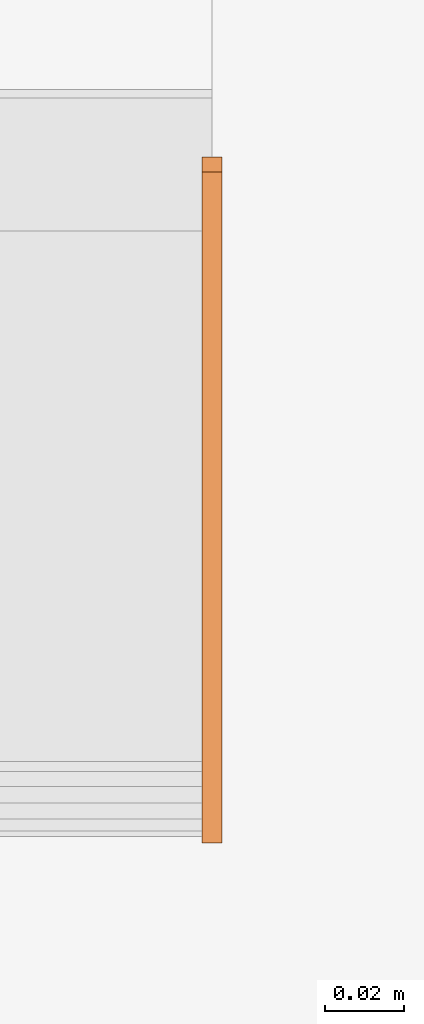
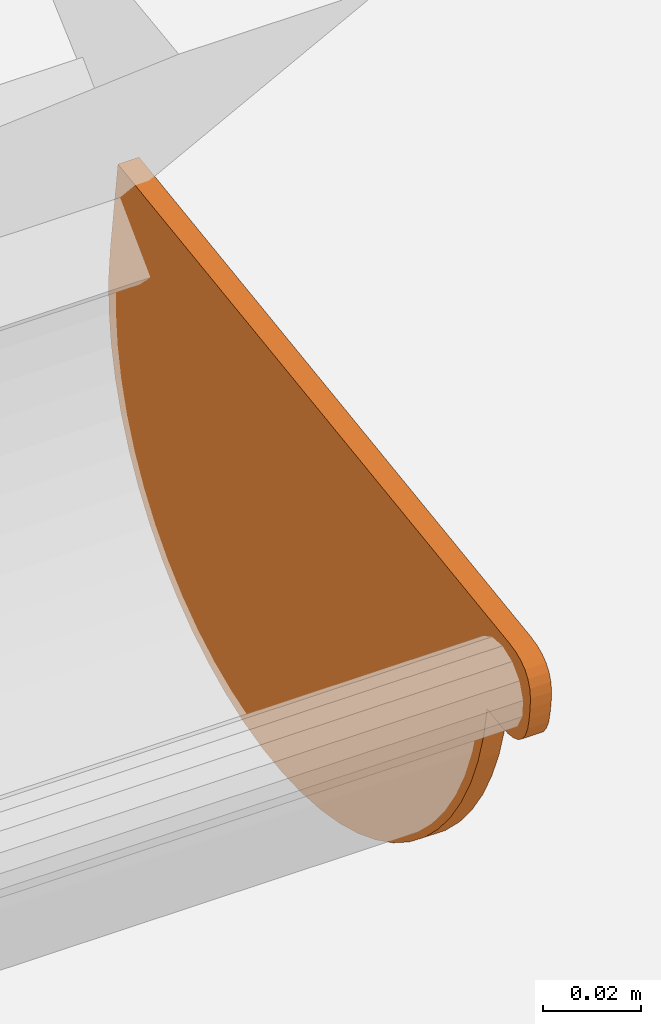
# One storey, part 31 of 43: 1 proxy.
"""IFC2X3 building model written with IfcOpenShell, lengths in millimetres."""

from ifc_helpers import new_model, si_unit, frame, origin_with_axes, place, context, project, spatial, faceted_brep, element, save


model = new_model("IFC2X3")

# Units and contexts
model_context = context("Model", 3, world=origin_with_axes())
ifc_project = project(units=[si_unit("LENGTHUNIT", "METRE", prefix="MILLI")], contexts=[model_context])

# Site, building, storey
site_placement = place(None, origin_with_axes())
site = spatial("IfcSite", under=ifc_project, at=site_placement, Name="Site", CompositionType="ELEMENT")
building_placement = place(site_placement, origin_with_axes())
building = spatial("IfcBuilding", under=site, at=building_placement, Name="?", CompositionType="ELEMENT")
storey_placement = place(building_placement, frame((0.0, 0.0, 5938.0), z_axis=(0.0, 0.0, 1.0), x_axis=(1.0, 0.0, 0.0)))
storey = spatial("IfcBuildingStorey", under=building, at=storey_placement, Name="Dachgeschoß", CompositionType="ELEMENT", Elevation=5938.0)

# Proxy
proxy_placement = place(None, origin_with_axes())
element("IfcBuildingElementProxy", 1, at=proxy_placement, inside=storey, Name="Dach02_RoofGutter#025", ObjectType="gutter", CompositionType="ELEMENT", context=model_context, shape_type="Brep", body=[
    faceted_brep([(13852.5, -7754.2509765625, 6644.93896484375), (13847.5, -7754.2509765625, 6644.93896484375), (13847.5, -7752.75647654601, 6637.18036494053), (13852.5, -7752.75647654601, 6637.18036494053), (13852.5, -7752.75634765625, 6637.18017578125), (13847.5, -7752.75634765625, 6637.18017578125), (13847.5, -7750.48454766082, 6629.61247599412), (13852.5, -7750.48454766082, 6629.61247599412), (13852.5, -7750.484375, 6629.61279296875), (13847.5, -7750.484375, 6629.61279296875), (13847.5, -7747.45867502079, 6622.31389280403), (13852.5, -7747.45867502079, 6622.31389280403), (13852.5, -7747.458984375, 6622.3134765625), (13847.5, -7747.458984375, 6622.3134765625), (13847.5, -7743.71028437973, 6615.3580766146), (13852.5, -7743.71028437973, 6615.3580766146), (13852.5, -7743.7099609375, 6615.3583984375), (13847.5, -7743.7099609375, 6615.3583984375), (13847.5, -7739.27686074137, 6608.81789834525), (13852.5, -7739.27686074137, 6608.81789834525), (13852.5, -7739.27734375, 6608.81787109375), (13847.5, -7739.27734375, 6608.81787109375), (13847.5, -7734.20534357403, 6602.75937116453), (13852.5, -7734.20534357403, 6602.75937116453), (13852.5, -7734.205078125, 6602.75927734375), (13847.5, -7734.205078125, 6602.75927734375), (13847.5, -7728.54617810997, 6597.24507732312), (13852.5, -7728.54617810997, 6597.24507732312), (13852.5, -7728.54638671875, 6597.2451171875), (13847.5, -7728.54638671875, 6597.2451171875), (13847.5, -7722.35858673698, 6592.33171697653), (13852.5, -7722.35858673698, 6592.33171697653), (13852.5, -7722.3583984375, 6592.33154296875), (13847.5, -7722.3583984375, 6592.33154296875), (13847.5, -7715.70539846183, 6588.06924304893), (13852.5, -7715.70539846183, 6588.06924304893), (13852.5, -7715.70556640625, 6588.0693359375), (13847.5, -7715.70556640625, 6588.0693359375), (13847.5, -7708.65536663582, 6584.50213591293), (13852.5, -7708.65536663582, 6584.50213591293), (13852.5, -7708.6552734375, 6584.501953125), (13847.5, -7708.6552734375, 6584.501953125), (13847.5, -7701.28037339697, 6581.66625324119), (13852.5, -7701.28037339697, 6581.66625324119), (13852.5, -7701.2802734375, 6581.66650390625), (13847.5, -7701.2802734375, 6581.66650390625), (13847.5, -7693.65637361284, 6579.59140394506), (13852.5, -7693.65637361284, 6579.59140394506), (13852.5, -7693.65625, 6579.59130859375), (13847.5, -7693.65625, 6579.59130859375), (13847.5, -7685.86154998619, 6578.29820858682), (13852.5, -7685.86154998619, 6578.29820858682), (13852.5, -7685.86181640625, 6578.29833984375), (13847.5, -7685.86181640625, 6578.29833984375), (13847.5, -7677.97621626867, 6577.80043982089), (13852.5, -7677.97621626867, 6577.80043982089), (13852.5, -7677.97607421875, 6577.80029296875), (13847.5, -7677.97607421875, 6577.80029296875), (13847.5, -7670.08057429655, 6578.10269295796), (13852.5, -7670.08057429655, 6578.10269295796), (13852.5, -7670.08056640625, 6578.1025390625), (13847.5, -7670.08056640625, 6578.1025390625), (13847.5, -7662.2561663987, 6579.20223903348), (13852.5, -7662.2561663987, 6579.20223903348), (13852.5, -7662.25634765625, 6579.20263671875), (13847.5, -7662.25634765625, 6579.20263671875), (13847.5, -7654.58334766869, 6581.08813669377), (13852.5, -7654.58334766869, 6581.08813669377), (13852.5, -7654.5830078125, 6581.087890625), (13847.5, -7654.5830078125, 6581.087890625), (13847.5, -7647.14020801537, 6583.74009059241), (13852.5, -7647.14020801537, 6583.74009059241), (13852.5, -7647.140625, 6583.740234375), (13847.5, -7647.140625, 6583.740234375), (13847.5, -7640.00422499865, 6587.13183440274), (13852.5, -7640.00422499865, 6587.13183440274), (13852.5, -7640.00390625, 6587.1318359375), (13847.5, -7640.00390625, 6587.1318359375), (13847.5, -7633.24730613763, 6591.22793584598), (13852.5, -7633.24730613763, 6591.22793584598), (13852.5, -7633.24755859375, 6591.22802734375), (13847.5, -7633.24755859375, 6591.22802734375), (13847.5, -7626.94005870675, 6595.98662726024), (13852.5, -7626.94005870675, 6595.98662726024), (13852.5, -7626.93994140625, 6595.986328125), (13847.5, -7626.93994140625, 6595.986328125), (13847.5, -7621.14614135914, 6601.35872833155), (13852.5, -7621.14614135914, 6601.35872833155), (13852.5, -7621.14599609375, 6601.35888671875), (13847.5, -7621.14599609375, 6601.35888671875), (13847.5, -7615.92549597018, 6607.28988671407), (13852.5, -7615.92549597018, 6607.28988671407), (13852.5, -7615.92578125, 6607.2900390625), (13847.5, -7615.92578125, 6607.2900390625), (13847.5, -7611.33198134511, 6613.71863918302), (13852.5, -7611.33198134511, 6613.71863918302), (13852.5, -7611.33203125, 6613.71826171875), (13847.5, -7611.33203125, 6613.71826171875), (13847.5, -7607.41233128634, 6620.57876151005), (13852.5, -7607.41233128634, 6620.57876151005), (13852.5, -7607.412109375, 6620.5791015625), (13847.5, -7607.412109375, 6620.5791015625), (13847.5, -7604.20650946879, 6627.8008014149), (13852.5, -7604.20650946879, 6627.8008014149), (13852.5, -7604.20654296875, 6627.80078125), (13847.5, -7604.20654296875, 6627.80078125), (13847.5, -7601.74794288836, 6635.30988116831), (13852.5, -7601.74794288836, 6635.30988116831), (13852.5, -7601.748046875, 6635.3095703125), (13847.5, -7601.748046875, 6635.3095703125), (13847.5, -7600.06184691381, 6643.02877046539), (13852.5, -7600.06184691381, 6643.02877046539), (13852.5, -7600.0615234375, 6643.02880859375), (13847.5, -7600.0615234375, 6643.02880859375), (13847.5, -7599.16482343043, 6650.87910882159), (13852.5, -7599.16482343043, 6650.87910882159), (13852.5, -7599.1650390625, 6650.87939453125), (13847.5, -7599.1650390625, 6650.87939453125), (13847.5, -7599.06723906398, 6658.77999466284), (13852.5, -7599.06723906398, 6658.77999466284), (13852.5, -7599.0673828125, 6658.77978515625), (13847.5, -7599.0673828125, 6658.77978515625), (13847.5, -7599.76928279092, 6666.64988526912), (13852.5, -7599.76928279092, 6666.64988526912), (13852.5, -7599.76904296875, 6666.64990234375), (13847.5, -7599.76904296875, 6666.64990234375), (13847.5, -7677.00994139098, 6655.79430188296), (13852.5, -7677.00994139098, 6655.79430188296), (13852.5, -7677.009765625, 6655.79443359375), (13847.5, -7677.009765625, 6655.79443359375), (13847.5, -7754.25066421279, 6644.93893386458), (13852.5, -7754.25066421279, 6644.93893386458), (13847.5, -7600.0615234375, 6643.02880859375), (13847.5, -7677.0098234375, 6655.79420859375), (13847.5, -7599.7689234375, 6666.64980859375), (13847.5, -7599.0670234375, 6658.77970859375), (13847.5, -7600.0615234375, 6643.02880859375), (13847.5, -7599.0670234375, 6658.77970859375), (13847.5, -7599.1648234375, 6650.87910859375), (13847.5, -7611.33203125, 6613.71826171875), (13847.5, -7600.06193125, 6643.02876171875), (13847.5, -7601.74813125, 6635.30956171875), (13847.5, -7604.20673125, 6627.80046171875), (13847.5, -7611.33203125, 6613.71826171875), (13847.5, -7604.20673125, 6627.80046171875), (13847.5, -7607.41233125, 6620.57876171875), (13847.5, -7662.25634765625, 6579.20263671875), (13847.5, -7677.01014765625, 6655.79453671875), (13847.5, -7600.06184765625, 6643.02913671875), (13847.5, -7611.33194765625, 6613.71863671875), (13847.5, -7633.24755859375, 6591.22802734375), (13847.5, -7611.33195859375, 6613.71862734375), (13847.5, -7615.92575859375, 6607.29002734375), (13847.5, -7621.14625859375, 6601.35902734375), (13847.5, -7633.24755859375, 6591.22802734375), (13847.5, -7621.14625859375, 6601.35902734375), (13847.5, -7626.94005859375, 6595.98662734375), (13847.5, -7662.25634765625, 6579.20263671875), (13847.5, -7633.24754765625, 6591.22803671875), (13847.5, -7640.00414765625, 6587.13193671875), (13847.5, -7647.14054765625, 6583.74033671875), (13847.5, -7662.25634765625, 6579.20263671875), (13847.5, -7647.14054765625, 6583.74033671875), (13847.5, -7654.58334765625, 6581.08813671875), (13847.5, -7662.25634765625, 6579.20263671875), (13847.5, -7611.33194765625, 6613.71863671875), (13847.5, -7633.24754765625, 6591.22803671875), (13847.5, -7693.65625, 6579.59130859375), (13847.5, -7662.25605, 6579.20240859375), (13847.5, -7670.08045, 6578.10270859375), (13847.5, -7677.97595, 6577.80030859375), (13847.5, -7693.65625, 6579.59130859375), (13847.5, -7677.97595, 6577.80030859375), (13847.5, -7685.86155, 6578.29820859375), (13847.5, -7722.3583984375, 6592.33154296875), (13847.5, -7693.6563984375, 6579.59124296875), (13847.5, -7701.2802984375, 6581.66634296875), (13847.5, -7708.6551984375, 6584.50204296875), (13847.5, -7722.3583984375, 6592.33154296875), (13847.5, -7708.6551984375, 6584.50204296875), (13847.5, -7715.7053984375, 6588.06924296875), (13847.5, -7677.009765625, 6655.79443359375), (13847.5, -7662.255965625, 6579.20253359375), (13847.5, -7693.656165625, 6579.59143359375), (13847.5, -7722.358165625, 6592.33173359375), (13847.5, -7743.7099609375, 6615.3583984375), (13847.5, -7722.3581609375, 6592.3317984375), (13847.5, -7728.5459609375, 6597.2451984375), (13847.5, -7734.2048609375, 6602.7593984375), (13847.5, -7743.7099609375, 6615.3583984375), (13847.5, -7734.2048609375, 6602.7593984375), (13847.5, -7739.2768609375, 6608.8178984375), (13847.5, -7750.484375, 6629.61279296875), (13847.5, -7677.009775, 6655.79459296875), (13847.5, -7722.358175, 6592.33189296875), (13847.5, -7743.709975, 6615.35849296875), (13847.5, -7750.484375, 6629.61279296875), (13847.5, -7743.709975, 6615.35849296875), (13847.5, -7747.458675, 6622.31389296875), (13847.5, -7754.2509765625, 6644.93896484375), (13847.5, -7677.0100765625, 6655.79446484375), (13847.5, -7750.4846765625, 6629.61266484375), (13847.5, -7752.7564765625, 6637.18036484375), (13852.5, -7739.27734375, 6608.81787109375), (13852.5, -7752.75664375, 6637.18037109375), (13852.5, -7750.48484375, 6629.61267109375), (13852.5, -7747.45914375, 6622.31377109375), (13852.5, -7739.27734375, 6608.81787109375), (13852.5, -7747.45914375, 6622.31377109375), (13852.5, -7743.71044375, 6615.35837109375), (13852.5, -7715.70556640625, 6588.0693359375), (13852.5, -7739.27726640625, 6608.8177359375), (13852.5, -7734.20526640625, 6602.7592359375), (13852.5, -7728.54636640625, 6597.2450359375), (13852.5, -7715.70556640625, 6588.0693359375), (13852.5, -7728.54636640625, 6597.2450359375), (13852.5, -7722.35856640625, 6592.3316359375), (13852.5, -7654.5830078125, 6581.087890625), (13852.5, -7752.7562078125, 6637.180190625), (13852.5, -7739.2769078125, 6608.817690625), (13852.5, -7715.7052078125, 6588.069290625), (13852.5, -7685.86181640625, 6578.29833984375), (13852.5, -7715.70551640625, 6588.06943984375), (13852.5, -7708.65531640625, 6584.50223984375), (13852.5, -7701.28041640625, 6581.66653984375), (13852.5, -7685.86181640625, 6578.29833984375), (13852.5, -7701.28041640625, 6581.66653984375), (13852.5, -7693.65651640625, 6579.59143984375), (13852.5, -7654.5830078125, 6581.087890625), (13852.5, -7685.8615078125, 6578.298190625), (13852.5, -7677.9759078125, 6577.800290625), (13852.5, -7670.0804078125, 6578.102690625), (13852.5, -7654.5830078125, 6581.087890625), (13852.5, -7670.0804078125, 6578.102690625), (13852.5, -7662.2560078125, 6579.202390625), (13852.5, -7654.5830078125, 6581.087890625), (13852.5, -7715.7052078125, 6588.069290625), (13852.5, -7685.8615078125, 6578.298190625), (13852.5, -7626.93994140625, 6595.986328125), (13852.5, -7654.58324140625, 6581.087828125), (13852.5, -7647.14044140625, 6583.740028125), (13852.5, -7640.00404140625, 6587.131628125), (13852.5, -7626.93994140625, 6595.986328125), (13852.5, -7640.00404140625, 6587.131628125), (13852.5, -7633.24744140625, 6591.227728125), (13852.5, -7607.412109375, 6620.5791015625), (13852.5, -7626.939909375, 6595.9866015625), (13852.5, -7621.146109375, 6601.3590015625), (13852.5, -7615.925609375, 6607.2900015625), (13852.5, -7607.412109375, 6620.5791015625), (13852.5, -7615.925609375, 6607.2900015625), (13852.5, -7611.331809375, 6613.7186015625), (13852.5, -7752.75634765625, 6637.18017578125), (13852.5, -7654.58314765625, 6581.08787578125), (13852.5, -7626.93984765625, 6595.98637578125), (13852.5, -7607.41204765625, 6620.57887578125), (13852.5, -7599.1650390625, 6650.87939453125), (13852.5, -7607.4121390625, 6620.57909453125), (13852.5, -7604.2065390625, 6627.80079453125), (13852.5, -7601.7479390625, 6635.30989453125), (13852.5, -7599.1650390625, 6650.87939453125), (13852.5, -7601.7479390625, 6635.30989453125), (13852.5, -7600.0617390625, 6643.02909453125), (13852.5, -7599.76904296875, 6666.64990234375), (13852.5, -7752.75634296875, 6637.18020234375), (13852.5, -7607.41204296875, 6620.57890234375), (13852.5, -7599.16494296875, 6650.87920234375), (13852.5, -7599.76904296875, 6666.64990234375), (13852.5, -7599.16494296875, 6650.87920234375), (13852.5, -7599.06714296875, 6658.77980234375), (13852.5, -7754.2509765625, 6644.93896484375), (13852.5, -7752.7564765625, 6637.18036484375), (13852.5, -7599.7691765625, 6666.65006484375), (13852.5, -7677.0100765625, 6655.79446484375), (13847.5, -7599.76904296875, 6666.64990234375), (13852.5, -7599.76904296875, 6666.64990234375), (13852.5, -7760.09054740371, 6644.10700284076), (13847.5, -7760.09054740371, 6644.10700284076), (13852.5, -7763.29150390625, 6666.88330078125), (13852.5, -7602.86710379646, 6689.4295002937), (13847.5, -7602.86710379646, 6689.4295002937), (13847.5, -7763.29150390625, 6666.88330078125), (13852.5, -7602.8671875, 6689.4296875), (13852.5, -7599.76908754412, 6666.65018805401), (13847.5, -7599.76908754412, 6666.65018805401), (13847.5, -7602.8671875, 6689.4296875), (13847.5, -7765.05419921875, 6644.23388671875), (13847.5, -7599.76929921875, 6666.65008671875), (13847.5, -7760.09079921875, 6644.10718671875), (13847.5, -7762.74619921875, 6643.94008671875), (13847.5, -7768.6279296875, 6646.2041015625), (13847.5, -7599.7690296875, 6666.6498015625), (13847.5, -7765.0539296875, 6644.2336015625), (13847.5, -7767.0146296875, 6644.9884015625), (13847.5, -7770.8125, 6650.0185546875), (13847.5, -7599.769, 6666.6499546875), (13847.5, -7768.6279, 6646.2042546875), (13847.5, -7769.8939, 6647.8809546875), (13847.5, -7763.29150390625, 6666.88330078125), (13847.5, -7599.76900390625, 6666.65000078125), (13847.5, -7770.81250390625, 6650.01860078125), (13847.5, -7771.38380390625, 6652.61720078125), (13847.5, -7771.6748046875, 6660.55322265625), (13847.5, -7771.3837046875, 6652.61702265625), (13847.5, -7771.8015046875, 6655.58982265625), (13847.5, -7771.9686046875, 6658.24522265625), (13847.5, -7769.70458984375, 6664.12744140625), (13847.5, -7771.38398984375, 6652.61724140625), (13847.5, -7771.67508984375, 6660.55344140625), (13847.5, -7770.92028984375, 6662.51414140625), (13847.5, -7765.89013671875, 6666.31201171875), (13847.5, -7771.38383671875, 6652.61721171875), (13847.5, -7769.70443671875, 6664.12741171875), (13847.5, -7768.02773671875, 6665.39341171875), (13847.5, -7763.29150390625, 6666.88330078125), (13847.5, -7771.38380390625, 6652.61720078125), (13847.5, -7765.89010390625, 6666.31200078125), (13847.5, -7602.8671875, 6689.4296875), (13847.5, -7599.7690875, 6666.6501875), (13847.5, -7763.2915875, 6666.8834875), (13847.5, -7771.8017578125, 6655.58984375), (13847.5, -7771.38395782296, 6652.61704377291), (13852.5, -7771.38395782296, 6652.61704377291), (13852.5, -7771.8017578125, 6655.58984375), (13852.5, -7771.8017578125, 6655.58984375), (13852.5, -7760.0906578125, 6644.10694375), (13852.5, -7599.7691578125, 6666.64984375), (13852.5, -7602.8672578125, 6689.42934375), (13852.5, -7768.02783203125, 6665.3935546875), (13852.5, -7602.86723203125, 6689.4296546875), (13852.5, -7763.29163203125, 6666.8834546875), (13852.5, -7765.89023203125, 6666.3121546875), (13852.5, -7770.92041015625, 6662.51416015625), (13852.5, -7602.86741015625, 6689.42956015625), (13852.5, -7768.02801015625, 6665.39346015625), (13852.5, -7769.70471015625, 6664.12746015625), (13852.5, -7771.96875, 6658.24560546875), (13852.5, -7602.86715, 6689.42970546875), (13852.5, -7770.92015, 6662.51430546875), (13852.5, -7771.67495, 6660.55360546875), (13852.5, -7771.8017578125, 6655.58984375), (13852.5, -7602.8672578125, 6689.42934375), (13852.5, -7771.9688578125, 6658.24524375), (13852.5, -7765.05419921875, 6644.23388671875), (13852.5, -7762.74619921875, 6643.94008671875), (13852.5, -7760.09079921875, 6644.10718671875), (13852.5, -7771.80189921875, 6655.59008671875), (13852.5, -7768.6279296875, 6646.2041015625), (13852.5, -7767.0146296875, 6644.9884015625), (13852.5, -7765.0539296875, 6644.2336015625), (13852.5, -7771.8016296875, 6655.5898015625), (13852.5, -7770.8125, 6650.0185546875), (13852.5, -7769.8939, 6647.8809546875), (13852.5, -7768.6279, 6646.2042546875), (13852.5, -7771.8016, 6655.5899546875), (13852.5, -7771.8017578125, 6655.58984375), (13852.5, -7771.3839578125, 6652.61704375), (13852.5, -7770.8126578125, 6650.01844375), (13852.5, -7762.74609375, 6643.93994140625), (13847.5, -7762.74609375, 6643.93994140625), (13847.5, -7760.09069368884, 6644.10704139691), (13852.5, -7760.09069368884, 6644.10704139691), (13847.5, -7765.89013671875, 6666.31201171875), (13852.5, -7765.89013671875, 6666.31201171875), (13852.5, -7763.291536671, 6666.88331171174), (13847.5, -7763.291536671, 6666.88331171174), (13852.5, -7765.05419921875, 6644.23388671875), (13847.5, -7765.05419921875, 6644.23388671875), (13847.5, -7762.74619921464, 6643.9400867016), (13852.5, -7762.74619921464, 6643.9400867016), (13852.5, -7767.0146484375, 6644.98876953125), (13847.5, -7767.0146484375, 6644.98876953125), (13847.5, -7765.05394848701, 6644.23396956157), (13852.5, -7765.05394848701, 6644.23396956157), (13852.5, -7768.6279296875, 6646.2041015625), (13847.5, -7768.6279296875, 6646.2041015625), (13847.5, -7767.01462973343, 6644.98840159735), (13852.5, -7767.01462973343, 6644.98840159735), (13852.5, -7769.89404296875, 6647.880859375), (13847.5, -7769.89404296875, 6647.880859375), (13847.5, -7768.62804300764, 6646.20415938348), (13852.5, -7768.62804300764, 6646.20415938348), (13852.5, -7770.8125, 6650.0185546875), (13847.5, -7770.8125, 6650.0185546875), (13847.5, -7769.89390000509, 6647.88095474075), (13852.5, -7769.89390000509, 6647.88095474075), (13852.5, -7771.3837890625, 6652.6171875), (13847.5, -7771.3837890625, 6652.6171875), (13847.5, -7770.81248906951, 6650.01858745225), (13852.5, -7770.81248906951, 6650.01858745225), (13847.5, -7768.02783203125, 6665.3935546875), (13852.5, -7768.02783203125, 6665.3935546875), (13852.5, -7765.8902320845, 6666.31215468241), (13847.5, -7765.8902320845, 6666.31215468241), (13847.5, -7769.70458984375, 6664.12744140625), (13852.5, -7769.70458984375, 6664.12744140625), (13852.5, -7768.02788985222, 6665.39344136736), (13847.5, -7768.02788985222, 6665.39344136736), (13847.5, -7770.92041015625, 6662.51416015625), (13852.5, -7770.92041015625, 6662.51416015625), (13852.5, -7769.7047101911, 6664.12746011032), (13847.5, -7769.7047101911, 6664.12746011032), (13847.5, -7771.6748046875, 6660.55322265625), (13852.5, -7771.6748046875, 6660.55322265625), (13852.5, -7770.92000471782, 6662.51392260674), (13847.5, -7770.92000471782, 6662.51392260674), (13847.5, -7771.96875, 6658.24560546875), (13852.5, -7771.96875, 6658.24560546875), (13852.5, -7771.67494998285, 6660.55360547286), (13847.5, -7771.67494998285, 6660.55360547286), (13847.5, -7771.8017578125, 6655.58984375), (13852.5, -7771.8017578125, 6655.58984375), (13852.5, -7771.96885780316, 6658.24524381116), (13847.5, -7771.96885780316, 6658.24524381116)], [[[0, 1, 2, 3]], [[4, 5, 6, 7]], [[8, 9, 10, 11]], [[12, 13, 14, 15]], [[16, 17, 18, 19]], [[20, 21, 22, 23]], [[24, 25, 26, 27]], [[28, 29, 30, 31]], [[32, 33, 34, 35]], [[36, 37, 38, 39]], [[40, 41, 42, 43]], [[44, 45, 46, 47]], [[48, 49, 50, 51]], [[52, 53, 54, 55]], [[56, 57, 58, 59]], [[60, 61, 62, 63]], [[64, 65, 66, 67]], [[68, 69, 70, 71]], [[72, 73, 74, 75]], [[76, 77, 78, 79]], [[80, 81, 82, 83]], [[84, 85, 86, 87]], [[88, 89, 90, 91]], [[92, 93, 94, 95]], [[96, 97, 98, 99]], [[100, 101, 102, 103]], [[104, 105, 106, 107]], [[108, 109, 110, 111]], [[112, 113, 114, 115]], [[116, 117, 118, 119]], [[120, 121, 122, 123]], [[124, 125, 126, 127]], [[128, 129, 130, 131]], [[132, 133, 134, 135]], [[136, 137, 138]], [[139, 140, 141, 142]], [[143, 144, 145]], [[146, 147, 148, 149]], [[150, 151, 152, 153]], [[154, 155, 156]], [[157, 158, 159, 160]], [[161, 162, 163]], [[164, 165, 166]], [[167, 168, 169, 170]], [[171, 172, 173]], [[174, 175, 176, 177]], [[178, 179, 180]], [[181, 182, 183, 184]], [[185, 186, 187, 188]], [[189, 190, 191]], [[192, 193, 194, 195]], [[196, 197, 198]], [[199, 200, 201, 202]], [[203, 204, 205, 206]], [[207, 208, 209]], [[210, 211, 212, 213]], [[214, 215, 216]], [[217, 218, 219, 220]], [[221, 222, 223, 224]], [[225, 226, 227]], [[228, 229, 230, 231]], [[232, 233, 234]], [[235, 236, 237]], [[238, 239, 240, 241]], [[242, 243, 244]], [[245, 246, 247, 248]], [[249, 250, 251]], [[252, 253, 254, 255]], [[256, 257, 258, 259]], [[260, 261, 262]], [[263, 264, 265, 266]], [[267, 268, 269]], [[270, 271, 272, 273]], [[274, 275, 276, 277]], [[278, 279, 280, 281]], [[282, 283, 284, 285]], [[286, 287, 288, 289]], [[290, 291, 292, 293]], [[294, 295, 296, 297]], [[298, 299, 300, 301]], [[302, 303, 304, 305]], [[306, 307, 308, 309]], [[310, 311, 312, 313]], [[314, 315, 316]], [[317, 318, 319]], [[320, 321, 322, 323]], [[324, 325, 326, 327]], [[328, 329, 330, 331]], [[332, 333, 334, 335]], [[336, 337, 338, 339]], [[340, 341, 342]], [[343, 344, 345, 346]], [[347, 348, 349, 350]], [[351, 352, 353, 354]], [[355, 356, 357]], [[358, 359, 360, 361]], [[362, 363, 364, 365]], [[366, 367, 368, 369]], [[370, 371, 372, 373]], [[374, 375, 376, 377]], [[378, 379, 380, 381]], [[382, 383, 384, 385]], [[386, 387, 388, 389]], [[390, 391, 392, 393]], [[394, 395, 396, 397]], [[398, 399, 400, 401]], [[402, 403, 404, 405]], [[406, 407, 408, 409]], [[410, 411, 412, 413]]]),
])

save(model, "model.ifc")
